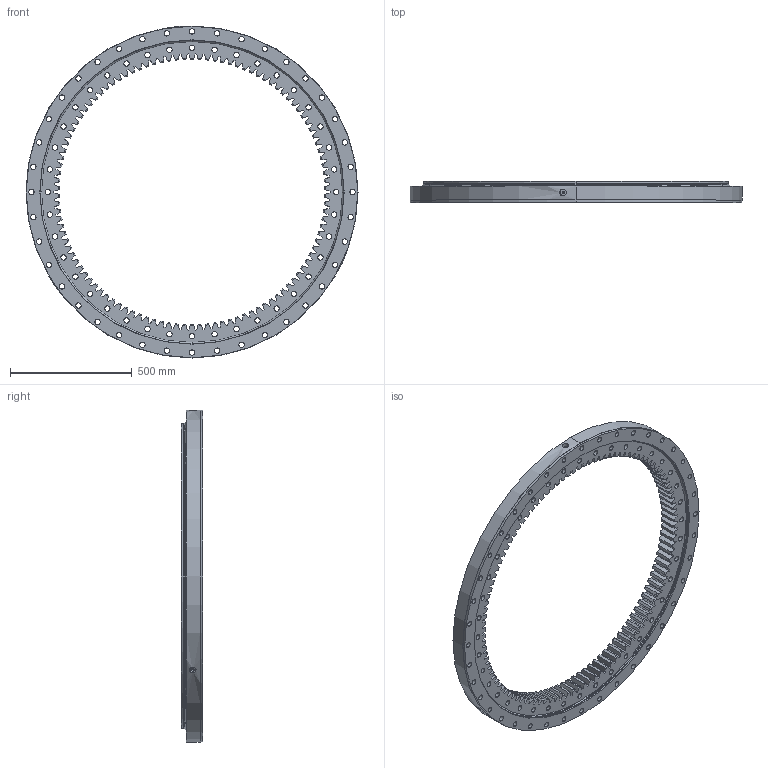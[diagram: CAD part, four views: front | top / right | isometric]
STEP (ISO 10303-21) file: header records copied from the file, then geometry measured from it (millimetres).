
FILE_DESCRIPTION (( 'STEP AP214' ), '1' );
FILE_NAME ('B2130-1-1362AA.STEP', '2022-11-24T06:54:37', ( '' ), ( '' ), 'SwSTEP 2.0', 'SolidWorks 2020', '' );
FILE_SCHEMA (( 'AUTOMOTIVE_DESIGN' ));
Length unit declared in the file: millimetre
Products named in the file (1): B2130-1-1362AA
Bounding box: 1362 x 87 x 1362 mm (x, y, z)
Volume: 32587553.2 mm3; surface area: 3055073.9 mm2
Topology: 4 solids, 4 shells, 900 faces, 2626 edges, 1749 vertices
Faces by surface type: plane 355, cylinder 315, cone 230
Entity records: 31179 total; most frequent: CARTESIAN_POINT 6961, ORIENTED_EDGE 5252, DIRECTION 4837, EDGE_CURVE 2626, AXIS2_PLACEMENT_3D 1760, VERTEX_POINT 1749, LINE 1317, VECTOR 1317
